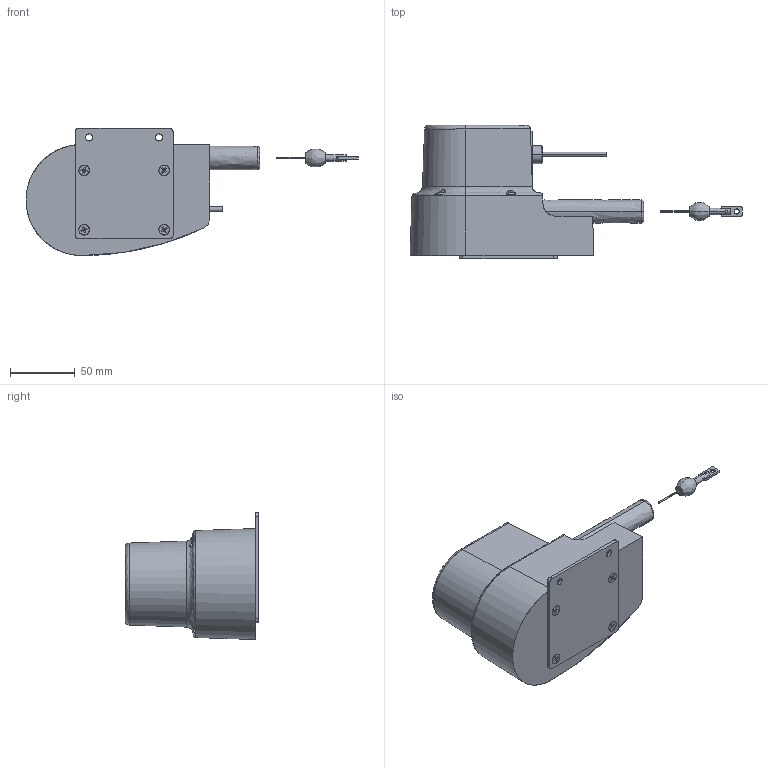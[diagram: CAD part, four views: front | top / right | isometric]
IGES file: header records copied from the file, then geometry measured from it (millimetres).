
Start section: SolidWorks IGES file using analytic representation for surfaces
Bounding box: 257.22 x 103.3 x 98.5 mm (x, y, z)
Surface area: 73000.5 mm2 (no closed solid volume)
Topology: 0 solids, 0 shells, 390 faces, 5997 edges, 5997 vertices
Faces by surface type: bspline 230, revolution 160
